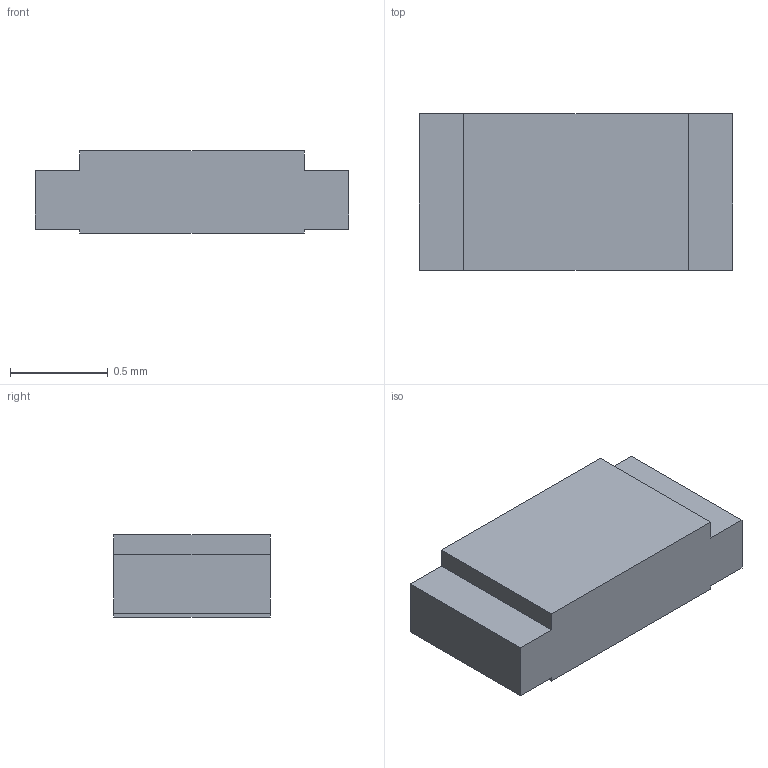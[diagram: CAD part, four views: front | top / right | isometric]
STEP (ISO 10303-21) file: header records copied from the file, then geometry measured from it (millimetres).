
FILE_DESCRIPTION(('Open CASCADE Model'),'2;1');
FILE_NAME('Open CASCADE Shape Model','2026-08-26T01:59:38',('Author'),( 'Open CASCADE'),'Open CASCADE STEP processor 7.9','Open CASCADE 7.9' ,'Unknown');
FILE_SCHEMA(('AUTOMOTIVE_DESIGN { 1 0 10303 214 1 1 1 1 }'));
Length unit declared in the file: millimetre
Products named in the file (1): Open CASCADE STEP translator 7.9 11
Bounding box: 1.6 x 0.8 x 0.42 mm (x, y, z)
Volume: 0.5 mm3; surface area: 4.5 mm2
Topology: 1 solids, 1 shells, 14 faces, 36 edges, 24 vertices
Faces by surface type: plane 14
Entity records: 898 total; most frequent: CARTESIAN_POINT 147, DIRECTION 138, LINE 108, VECTOR 108, ORIENTED_EDGE 72, PCURVE 72, DEFINITIONAL_REPRESENTATION 72, EDGE_CURVE 36
